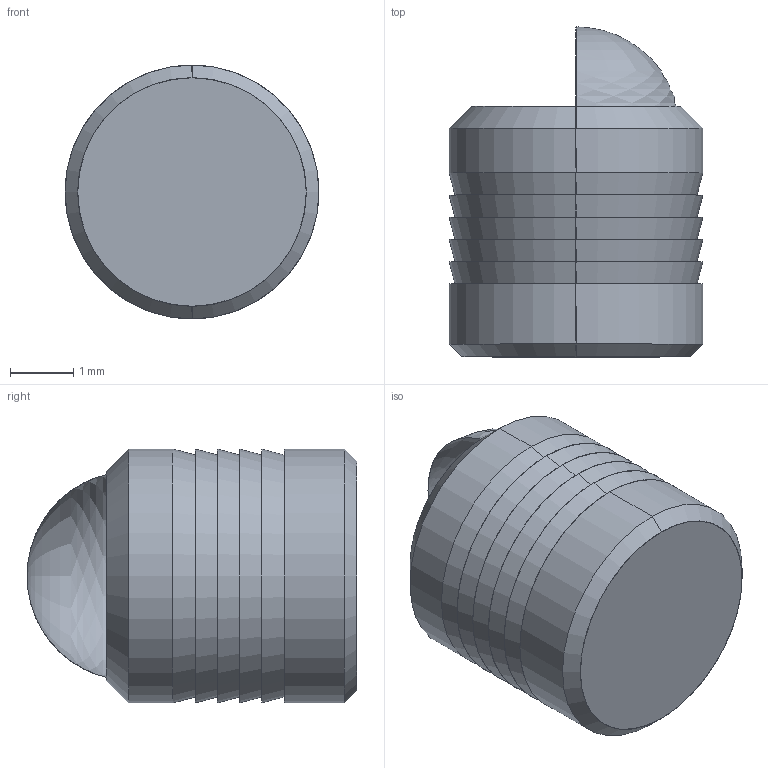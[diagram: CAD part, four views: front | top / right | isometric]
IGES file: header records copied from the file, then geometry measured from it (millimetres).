
Start section: SolidWorks IGES file using analytic representation for surfaces
Global section: file name: C:\Users\IanO\Desktop\P0190_v2\P0190_v2_20230321_IGES\P0190.040-AL-A2.igs; native system: SolidWorks 2019; preprocessor: SolidWorks 2019; author: IanO; date: 231219.161958; units: millimetre
Bounding box: 4 x 5.2 x 4 mm (x, y, z)
Surface area: 118.8 mm2 (no closed solid volume)
Topology: 0 solids, 0 shells, 28 faces, 440 edges, 437 vertices
Faces by surface type: revolution 22, bspline 6
